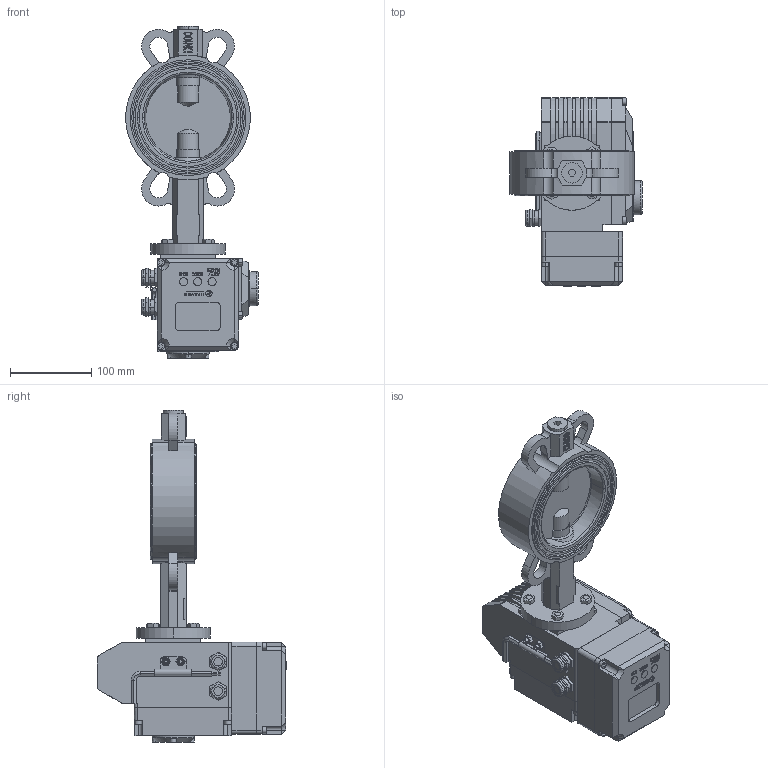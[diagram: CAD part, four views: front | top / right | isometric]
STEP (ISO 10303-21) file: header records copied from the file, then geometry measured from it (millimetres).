
FILE_DESCRIPTION((''),'2;1');
FILE_NAME('VBS_EAR_A_ASM','2025-02-22T',('AMD'),(''),'PRO/ENGINEER BY PARAMETRIC TECHNOLOGY CORPORATION, 2008020','PRO/ENGINEER BY PARAMETRIC TECHNOLOGY CORPORATION, 2008020','');
FILE_SCHEMA(('CONFIG_CONTROL_DESIGN'));
Length unit declared in the file: millimetre
Products named in the file (28): KORPUS; REZ; DISK; SHTIR_1; ZAGLUSHKA; O-RING; SHTIR_2; SHAIBA_RAZREZ; SHAIBA; KOLCO_26_GOST13943; VTULKA; MANZET_REZ; SB_ASM; B-7798-M8-25; DET_1; V-11738-M5; V-11738-M4; DET_2; KREPLENIE; KLUCH; DET_3; G-5915-M6; ELECTROPRIVOD_ASM; DET_4; DET_5; DISPLAY_ASM; ELECTROPRIVOD_WITH_DISPLAY_ASM; VBS_EAR_A_ASM
Assembly tree (51 placements, depth 4):
  VBS_EAR_A_ASM
    SB_ASM
      KORPUS
      REZ
      DISK
      SHTIR_1
      ZAGLUSHKA
      O-RING  x2
      SHTIR_2
      SHAIBA_RAZREZ
      SHAIBA  x2
      KOLCO_26_GOST13943
      VTULKA  x5
      MANZET_REZ
    B-7798-M8-25  x4
    ELECTROPRIVOD_WITH_DISPLAY_ASM
      ELECTROPRIVOD_ASM
        DET_1
        V-11738-M5  x8
        V-11738-M4  x4
        DET_2
        KREPLENIE
        KLUCH
        DET_3
        G-5915-M6  x2
      DISPLAY_ASM
        DET_4
        DET_5
        V-11738-M5  x4
Bounding box: 162.23 x 232 x 407.5 mm (x, y, z)
Volume: 3230408 mm3; surface area: 493390.4 mm2
Topology: 47 solids, 84 shells, 2716 faces, 7172 edges, 4727 vertices
Faces by surface type: plane 1804, cylinder 480, extrusion 300, cone 94, torus 38
Entity records: 75998 total; most frequent: CARTESIAN_POINT 16021, ORIENTED_EDGE 12668, DIRECTION 11333, EDGE_CURVE 6374, VECTOR 5065, LINE 4765, VERTEX_POINT 4212, AXIS2_PLACEMENT_3D 3134
